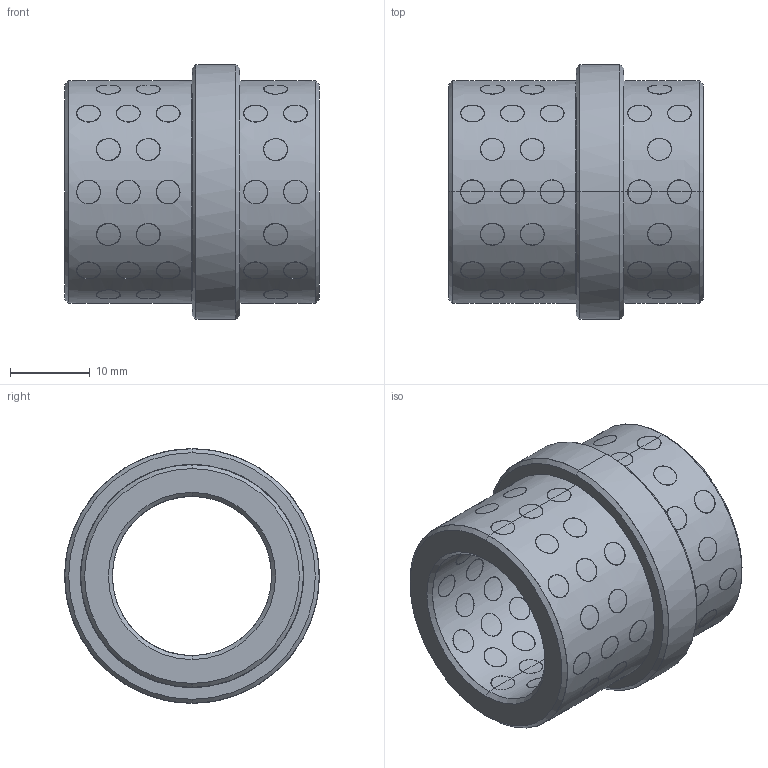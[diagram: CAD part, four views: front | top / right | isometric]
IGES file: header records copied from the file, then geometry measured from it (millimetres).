
Start section: START RECORD GO HERE.
Global section: file name: G4032032.igs; native system: DASSAULT SYSTEMES CATIA V5 R20 - www.3ds.com; preprocessor: CATIA Version 5 Release 20 ; author: r.borello; organization: CFTORINO; date: 20190624.144657; units: millimetre
Bounding box: 32 x 32 x 32 mm (x, y, z)
Surface area: 10507.4 mm2 (no closed solid volume)
Topology: 0 solids, 0 shells, 428 faces, 1872 edges, 1872 vertices
Faces by surface type: revolution 424, plane 4
